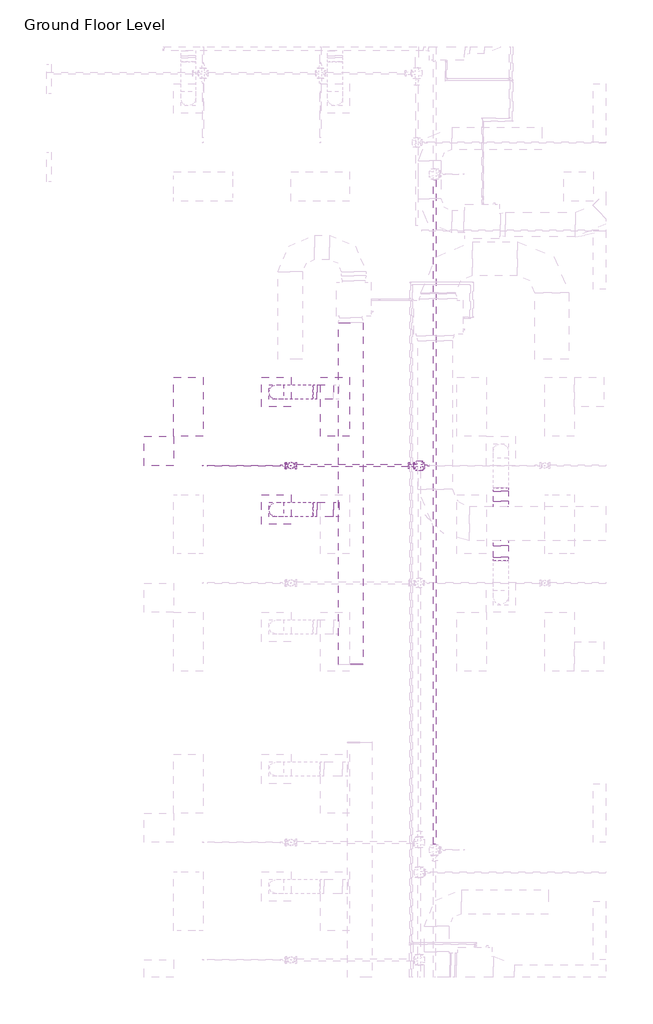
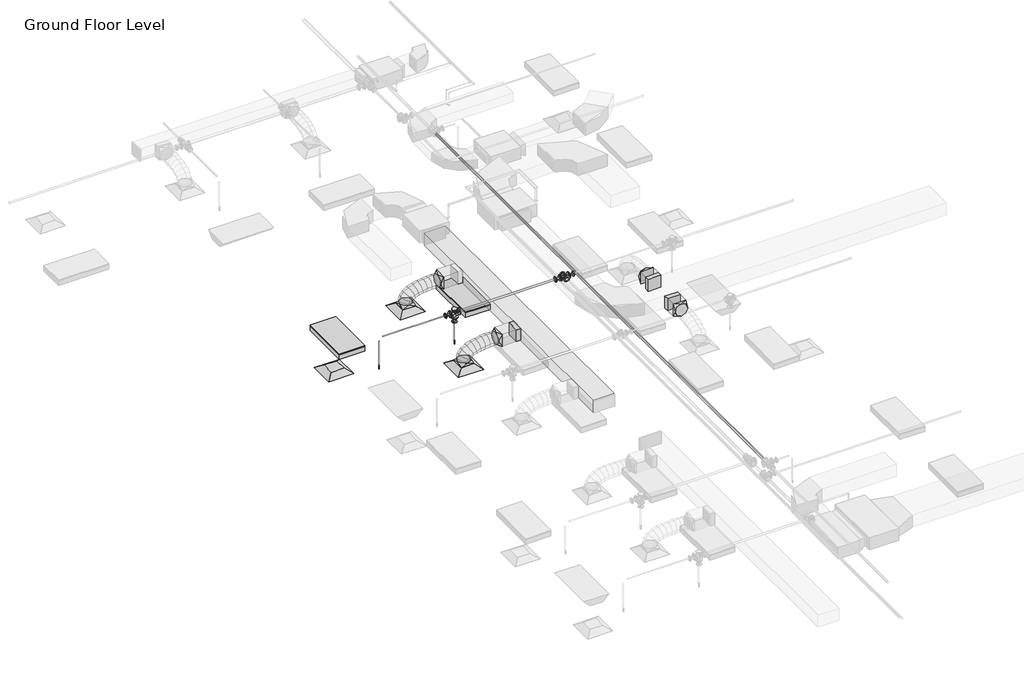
# One storey, part 30 of 74: 9 duct fittings, 7 duct segments, 6 pipe fittings, 5 pipe segments, 3 air terminals, 2 fire suppression terminals, 2 light fixtures.
"""IFC4 building model written with IfcOpenShell, lengths in millimetres."""

from ifc_helpers import new_model, si_unit, point, frame, frame_2d, origin, place, context, project, spatial, polyline, circle_curve, ellipse_curve, trimmed, segment, composite_curve, outline, extrude, transform, mapped, element, save
from ifc_brep_helpers import plane_surface, cylinder_surface, advanced_brep
from components import m_return_diffuser_600_x_600_face_300_x_300_connection_ff221211, m_rectangular_takeoff_standard_cb0ccb98, m_rectangular_takeoff_standard_2be5eba1, m_rectangular_to_round_transition_angle_45_degree_641efff0, m_sprinkler_dry_pendent_hosted_15_mm_dry_pendent_9bda8e11, m_troffer_light_parabolic_rectangular1_0600x1200mm_4_lamp_86473d4a, m_reducer_flanged_cs_class_150_standard_83138b42, m_reducer_flanged_cs_class_150_standard_dc68ad9d, m_reducer_flanged_cs_class_150_standard_678fb8eb, m_reducer_flanged_cs_class_150_standard_84a20e65, m_tee_round_base_flanged_cs_class_150_standard_9c9133d0, m_tee_round_base_flanged_cs_class_150_standard_ab36f383

model = new_model("IFC4")

# Units and contexts
model_context = context("Model", 3, world=origin())
ifc_project = project(units=[si_unit("LENGTHUNIT", "METRE", prefix="MILLI")], contexts=[model_context])

# Site, building, storey
site = spatial("IfcSite", under=ifc_project)
building = spatial("IfcBuilding", under=site)
storey = spatial("IfcBuildingStorey", under=building, Name="Ground Floor Level", Elevation=900.0)

# Air terminals
placement = place(None, origin())
m_return_diffuser_600_x_600_face_300_x_300_connection_shape = m_return_diffuser_600_x_600_face_300_x_300_connection_ff221211(model_context)
element("IfcAirTerminal", 1, ObjectType="M_Return Diffuser : 600 x 600 Face 300 x 300 Connection", at=placement, inside=storey, context=model_context, shape_type="MappedRepresentation", body=[
    mapped(m_return_diffuser_600_x_600_face_300_x_300_connection_shape, transform((362.7672395, -10664.7846466, 3650.0), x_axis=(1.0, 0.0, 0.0), y_axis=(0.0, 1.0, 0.0), z_axis=(0.0, 0.0, 1.0))),
])
element("IfcAirTerminal", 2, ObjectType="M_Supply Diffuser : 600 x 600 Face 300 x 300 Connection", at=placement, inside=storey, context=model_context, shape_type="MappedRepresentation", body=[
    mapped(m_return_diffuser_600_x_600_face_300_x_300_connection_shape, transform((2762.7672395, -9464.7846466, 3650.0), x_axis=(1.0, 0.0, 0.0), y_axis=(0.0, 1.0, 0.0), z_axis=(0.0, 0.0, 1.0))),
])
element("IfcAirTerminal", 3, ObjectType="M_Supply Diffuser : 600 x 600 Face 300 x 300 Connection", at=placement, inside=storey, context=model_context, shape_type="MappedRepresentation", body=[
    mapped(m_return_diffuser_600_x_600_face_300_x_300_connection_shape, transform((2762.7672395, -11864.7846466, 3650.0), x_axis=(1.0, 0.0, 0.0), y_axis=(0.0, 1.0, 0.0), z_axis=(0.0, 0.0, 1.0))),
])

# Duct fittings
m_rectangular_takeoff_standard_shape = m_rectangular_takeoff_standard_cb0ccb98(model_context)
element("IfcDuctFitting", 4, ObjectType="M_Rectangular Takeoff : Standard", at=placement, inside=storey, context=model_context, shape_type="MappedRepresentation", body=[
    mapped(m_rectangular_takeoff_standard_shape, transform((7352.7672395, -11799.3358641, 4099.9875), x_axis=(0.0, 1.0, 0.0), y_axis=(1.0, 0.0, 0.0), z_axis=(0.0, 0.0, -1.0))),
])
m_rectangular_takeoff_standard_2_shape = m_rectangular_takeoff_standard_2be5eba1(model_context)
element("IfcDuctFitting", 5, ObjectType="M_Rectangular Takeoff : Standard", at=placement, inside=storey, context=model_context, shape_type="MappedRepresentation", body=[
    mapped(m_rectangular_takeoff_standard_2_shape, transform((7352.7672395, -12499.3358641, 4099.9875), x_axis=(0.0, -1.0, 0.0), y_axis=(-1.0, 0.0, 0.0), z_axis=(0.0, 0.0, -1.0))),
])
element("IfcDuctFitting", 6, ObjectType="M_Rectangular Takeoff : Standard", at=placement, inside=storey, context=model_context, shape_type="MappedRepresentation", body=[
    mapped(m_rectangular_takeoff_standard_2_shape, transform((4032.1581888, -11864.7846466, 4099.9931113), x_axis=(-1.0, 0.0, 0.0), y_axis=(0.0, 1.0, 0.0), z_axis=(0.0, 0.0, -1.0))),
])
m_rectangular_to_round_transition_angle_45_degree_shape = m_rectangular_to_round_transition_angle_45_degree_641efff0(model_context)
element("IfcDuctFitting", 7, ObjectType="M_Rectangular to Round Transition - Angle : 45 Degree", at=placement, inside=storey, context=model_context, shape_type="MappedRepresentation", body=[
    mapped(m_rectangular_to_round_transition_angle_45_degree_shape, transform((2762.7672395, -9464.7846466, 3751.6), x_axis=(0.0, 0.0, 1.0), y_axis=(-1.0, 0.0, 0.0), z_axis=(0.0, -1.0, 0.0))),
])
element("IfcDuctFitting", 8, ObjectType="M_Rectangular to Round Transition - Angle : 45 Degree", at=placement, inside=storey, context=model_context, shape_type="MappedRepresentation", body=[
    mapped(m_rectangular_to_round_transition_angle_45_degree_shape, transform((3590.1057325, -9464.7846466, 4099.9974383), x_axis=(-1.0, 0.0, 0.0), y_axis=(0.0, -1.0, 0.0), z_axis=(0.0, 0.0, 1.0))),
])
element("IfcDuctFitting", 9, ObjectType="M_Rectangular to Round Transition - Angle : 45 Degree", at=placement, inside=storey, context=model_context, shape_type="MappedRepresentation", body=[
    mapped(m_rectangular_to_round_transition_angle_45_degree_shape, transform((2762.7672395, -11864.7846466, 3751.6), x_axis=(0.0, 0.0, 1.0), y_axis=(-1.0, 0.0, 0.0), z_axis=(0.0, -1.0, 0.0))),
])
element("IfcDuctFitting", 10, ObjectType="M_Rectangular to Round Transition - Angle : 45 Degree", at=placement, inside=storey, context=model_context, shape_type="MappedRepresentation", body=[
    mapped(m_rectangular_to_round_transition_angle_45_degree_shape, transform((3590.1100595, -11864.7846466, 4099.9931113), x_axis=(-1.0, 0.0, 0.0), y_axis=(0.0, -1.0, 0.0), z_axis=(0.0, 0.0, 1.0))),
])
element("IfcDuctFitting", 11, ObjectType="M_Rectangular to Round Transition - Angle : 45 Degree", at=placement, inside=storey, context=model_context, shape_type="MappedRepresentation", body=[
    mapped(m_rectangular_to_round_transition_angle_45_degree_shape, transform((7352.7672395, -11492.1330779, 4099.9875), x_axis=(0.0, 1.0, 0.0), y_axis=(-1.0, 0.0, 0.0), z_axis=(0.0, 0.0, 1.0))),
])
element("IfcDuctFitting", 12, ObjectType="M_Rectangular to Round Transition - Angle : 45 Degree", at=placement, inside=storey, context=model_context, shape_type="MappedRepresentation", body=[
    mapped(m_rectangular_to_round_transition_angle_45_degree_shape, transform((7352.7672395, -12837.4362153, 4099.9875), x_axis=(0.0, -1.0, 0.0), y_axis=(1.0, 0.0, 0.0), z_axis=(0.0, 0.0, 1.0))),
])

# Duct segments
element("IfcDuctSegment", 13, ObjectType="Flex - Round", at=placement, inside=storey, context=model_context, shape_type="AdvancedBrep", body=[
    advanced_brep(
    [(2912.7672395, -9464.7846466, 3826.6), (2762.7672395, -9614.7846466, 3826.6), (2612.7672395, -9464.7846466, 3826.6), (2762.7672395, -9314.7846466, 3826.6), (2912.7672395, -9464.7846466, 3832.2944653), (2762.7672395, -9614.7846466, 3857.937819), (2612.7672395, -9464.7846466, 3883.5811727), (2762.7672395, -9314.7846466, 3857.937819), (2913.5210607, -9464.7846466, 3834.4347571), (2779.7832431, -9614.7846466, 3906.2506195), (2646.0454255, -9464.7846466, 3978.066482), (2779.7832431, -9314.7846466, 3906.2506195), (2931.1727776, -9464.7846466, 3857.8014637), (2826.9673168, -9614.7846466, 3968.7111959), (2722.761856, -9464.7846466, 4079.620928), (2826.9673168, -9314.7846466, 3968.7111959), (2967.4569198, -9464.7846466, 3881.8155831), (2898.5235552, -9614.7846466, 4016.0696268), (2829.5901905, -9464.7846466, 4150.3236705), (2898.5235552, -9314.7846466, 4016.0696268), (3032.2160605, -9464.7846466, 3906.4914754), (2988.6560526, -9614.7846466, 4050.4138102), (2945.0960447, -9464.7846466, 4194.336145), (2988.6560526, -9314.7846466, 4050.4138102), (3118.1291117, -9464.7846466, 3926.0410022), (3091.5689036, -9614.7846466, 4073.8316439), (3065.0086955, -9464.7846466, 4221.6222855), (3091.5689036, -9314.7846466, 4073.8316439), (3216.6164827, -9464.7846466, 3939.1067008), (3201.4662026, -9614.7846466, 4088.4110257), (3186.3159225, -9464.7846466, 4237.7153505), (3201.4662026, -9314.7846466, 4088.4110257), (3320.0568882, -9464.7846466, 3946.3967129), (3312.5520441, -9614.7846466, 4096.2398535), (3305.0472001, -9464.7846466, 4246.0829941), (3312.5520441, -9314.7846466, 4096.2398535), (3421.7217312, -9464.7846466, 3949.4197495), (3419.0305226, -9614.7846466, 4099.4060251), (3416.339314, -9464.7846466, 4249.3923007), (3419.0305226, -9314.7846466, 4099.4060251), (3516.0290748, -9464.7846466, 3950.0002802), (3515.1057325, -9614.7846466, 4099.9974383), (3514.1823902, -9464.7846466, 4249.9945964), (3515.1057325, -9314.7846466, 4099.9974383)],
    [
        (0, 1, circle_curve(frame((2762.7672395, -9464.7846466, 3826.6), z_axis=(0.0, 0.0, -1.0), x_axis=(1.0, 0.0, 0.0)), 150.0)),
        (1, 2, circle_curve(frame((2762.7672395, -9464.7846466, 3826.6), z_axis=(0.0, 0.0, -1.0), x_axis=(1.0, 0.0, 0.0)), 150.0)),
        (2, 3, circle_curve(frame((2762.7672395, -9464.7846466, 3826.6), z_axis=(0.0, 0.0, -1.0), x_axis=(1.0, 0.0, 0.0)), 150.0)),
        (3, 0, circle_curve(frame((2762.7672395, -9464.7846466, 3826.6), z_axis=(0.0, 0.0, -1.0), x_axis=(1.0, 0.0, 0.0)), 150.0)),
        (0, 4),
        (4, 5, ellipse_curve(frame((2762.7672395, -9464.7846466, 3857.937819), z_axis=(-0.1685109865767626, 0.0, -0.9856997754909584), x_axis=(0.9856997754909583, 0.0, -0.16851098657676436)), 152.1761532, 150.0)),
        (5, 1),
        (5, 6, ellipse_curve(frame((2762.7672395, -9464.7846466, 3857.937819), z_axis=(-0.1685109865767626, 0.0, -0.9856997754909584), x_axis=(0.9856997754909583, 0.0, -0.16851098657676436)), 152.1761532, 150.0)),
        (6, 2),
        (6, 7, ellipse_curve(frame((2762.7672395, -9464.7846466, 3857.937819), z_axis=(-0.1685109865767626, 0.0, -0.9856997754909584), x_axis=(0.9856997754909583, 0.0, -0.16851098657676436)), 152.1761532, 150.0)),
        (7, 3),
        (7, 4, ellipse_curve(frame((2762.7672395, -9464.7846466, 3857.937819), z_axis=(-0.1685109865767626, 0.0, -0.9856997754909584), x_axis=(0.9856997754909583, 0.0, -0.16851098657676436)), 152.1761532, 150.0)),
        (4, 8),
        (8, 9, ellipse_curve(frame((2779.7832431, -9464.7846466, 3906.2506195), z_axis=(-0.47309443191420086, 0.0, -0.8810117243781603), x_axis=(0.8810117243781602, 0.0, -0.4730944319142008)), 151.80027, 150.0)),
        (9, 5),
        (9, 10, ellipse_curve(frame((2779.7832431, -9464.7846466, 3906.2506195), z_axis=(-0.47309443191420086, 0.0, -0.8810117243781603), x_axis=(0.8810117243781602, 0.0, -0.4730944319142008)), 151.80027, 150.0)),
        (10, 6),
        (10, 11, ellipse_curve(frame((2779.7832431, -9464.7846466, 3906.2506195), z_axis=(-0.47309443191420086, 0.0, -0.8810117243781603), x_axis=(0.8810117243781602, 0.0, -0.4730944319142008)), 151.80027, 150.0)),
        (11, 7),
        (11, 8, ellipse_curve(frame((2779.7832431, -9464.7846466, 3906.2506195), z_axis=(-0.47309443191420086, 0.0, -0.8810117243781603), x_axis=(0.8810117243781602, 0.0, -0.4730944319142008)), 151.80027, 150.0)),
        (8, 12),
        (12, 13, ellipse_curve(frame((2826.9673168, -9464.7846466, 3968.7111959), z_axis=(-0.7287905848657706, 0.0, -0.6847366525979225), x_axis=(0.6847366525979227, 0.0, -0.7287905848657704)), 152.1832669, 150.0)),
        (13, 9),
        (13, 14, ellipse_curve(frame((2826.9673168, -9464.7846466, 3968.7111959), z_axis=(-0.7287905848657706, 0.0, -0.6847366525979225), x_axis=(0.6847366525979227, 0.0, -0.7287905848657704)), 152.1832669, 150.0)),
        (14, 10),
        (14, 15, ellipse_curve(frame((2826.9673168, -9464.7846466, 3968.7111959), z_axis=(-0.7287905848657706, 0.0, -0.6847366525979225), x_axis=(0.6847366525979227, 0.0, -0.7287905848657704)), 152.1832669, 150.0)),
        (15, 11),
        (15, 12, ellipse_curve(frame((2826.9673168, -9464.7846466, 3968.7111959), z_axis=(-0.7287905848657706, 0.0, -0.6847366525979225), x_axis=(0.6847366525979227, 0.0, -0.7287905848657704)), 152.1832669, 150.0)),
        (12, 16),
        (16, 17, ellipse_curve(frame((2898.5235552, -9464.7846466, 4016.0696268), z_axis=(-0.8895882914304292, 0.0, -0.45676325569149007), x_axis=(0.45676325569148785, 0.0, -0.8895882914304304)), 150.9170535, 150.0)),
        (17, 13),
        (17, 18, ellipse_curve(frame((2898.5235552, -9464.7846466, 4016.0696268), z_axis=(-0.8895882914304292, 0.0, -0.45676325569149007), x_axis=(0.45676325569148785, 0.0, -0.8895882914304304)), 150.9170535, 150.0)),
        (18, 14),
        (18, 19, ellipse_curve(frame((2898.5235552, -9464.7846466, 4016.0696268), z_axis=(-0.8895882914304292, 0.0, -0.45676325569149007), x_axis=(0.45676325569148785, 0.0, -0.8895882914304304)), 150.9170535, 150.0)),
        (19, 15),
        (19, 16, ellipse_curve(frame((2898.5235552, -9464.7846466, 4016.0696268), z_axis=(-0.8895882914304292, 0.0, -0.45676325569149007), x_axis=(0.45676325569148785, 0.0, -0.8895882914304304)), 150.9170535, 150.0)),
        (16, 20),
        (20, 21, ellipse_curve(frame((2988.6560526, -9464.7846466, 4050.4138102), z_axis=(-0.9571218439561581, 0.0, -0.2896856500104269), x_axis=(0.28968565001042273, 0.0, -0.9571218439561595)), 150.3699197, 150.0)),
        (21, 17),
        (21, 22, ellipse_curve(frame((2988.6560526, -9464.7846466, 4050.4138102), z_axis=(-0.9571218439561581, 0.0, -0.2896856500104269), x_axis=(0.28968565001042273, 0.0, -0.9571218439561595)), 150.3699197, 150.0)),
        (22, 18),
        (22, 23, ellipse_curve(frame((2988.6560526, -9464.7846466, 4050.4138102), z_axis=(-0.9571218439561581, 0.0, -0.2896856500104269), x_axis=(0.28968565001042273, 0.0, -0.9571218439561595)), 150.3699197, 150.0)),
        (23, 19),
        (23, 20, ellipse_curve(frame((2988.6560526, -9464.7846466, 4050.4138102), z_axis=(-0.9571218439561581, 0.0, -0.2896856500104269), x_axis=(0.28968565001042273, 0.0, -0.9571218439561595)), 150.3699197, 150.0)),
        (20, 24),
        (24, 25, ellipse_curve(frame((3091.5689036, -9464.7846466, 4073.8316439), z_axis=(-0.9842321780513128, 0.0, -0.1768813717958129), x_axis=(0.17688137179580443, 0.0, -0.9842321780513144)), 150.1583111, 150.0)),
        (25, 21),
        (25, 26, ellipse_curve(frame((3091.5689036, -9464.7846466, 4073.8316439), z_axis=(-0.9842321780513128, 0.0, -0.1768813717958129), x_axis=(0.17688137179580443, 0.0, -0.9842321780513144)), 150.1583111, 150.0)),
        (26, 22),
        (26, 27, ellipse_curve(frame((3091.5689036, -9464.7846466, 4073.8316439), z_axis=(-0.9842321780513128, 0.0, -0.1768813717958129), x_axis=(0.17688137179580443, 0.0, -0.9842321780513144)), 150.1583111, 150.0)),
        (27, 23),
        (27, 24, ellipse_curve(frame((3091.5689036, -9464.7846466, 4073.8316439), z_axis=(-0.9842321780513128, 0.0, -0.1768813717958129), x_axis=(0.17688137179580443, 0.0, -0.9842321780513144)), 150.1583111, 150.0)),
        (24, 28),
        (28, 29, ellipse_curve(frame((3201.4662026, -9464.7846466, 4088.4110257), z_axis=(-0.994891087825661, 0.0, -0.10095406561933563), x_axis=(0.10095406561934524, 0.0, -0.99489108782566)), 150.0710245, 150.0)),
        (29, 25),
        (29, 30, ellipse_curve(frame((3201.4662026, -9464.7846466, 4088.4110257), z_axis=(-0.994891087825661, 0.0, -0.10095406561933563), x_axis=(0.10095406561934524, 0.0, -0.99489108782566)), 150.0710245, 150.0)),
        (30, 26),
        (30, 31, ellipse_curve(frame((3201.4662026, -9464.7846466, 4088.4110257), z_axis=(-0.994891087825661, 0.0, -0.10095406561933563), x_axis=(0.10095406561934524, 0.0, -0.99489108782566)), 150.0710245, 150.0)),
        (31, 27),
        (31, 28, ellipse_curve(frame((3201.4662026, -9464.7846466, 4088.4110257), z_axis=(-0.994891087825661, 0.0, -0.10095406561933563), x_axis=(0.10095406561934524, 0.0, -0.99489108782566)), 150.0710245, 150.0)),
        (28, 32),
        (32, 33, ellipse_curve(frame((3312.5520441, -9464.7846466, 4096.2398535), z_axis=(-0.9987481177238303, 0.0, -0.05002196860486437), x_axis=(0.05002196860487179, 0.0, -0.9987481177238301)), 150.0309617, 150.0)),
        (33, 29),
        (33, 34, ellipse_curve(frame((3312.5520441, -9464.7846466, 4096.2398535), z_axis=(-0.9987481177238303, 0.0, -0.05002196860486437), x_axis=(0.05002196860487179, 0.0, -0.9987481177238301)), 150.0309617, 150.0)),
        (34, 30),
        (34, 35, ellipse_curve(frame((3312.5520441, -9464.7846466, 4096.2398535), z_axis=(-0.9987481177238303, 0.0, -0.05002196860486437), x_axis=(0.05002196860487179, 0.0, -0.9987481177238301)), 150.0309617, 150.0)),
        (35, 31),
        (35, 32, ellipse_curve(frame((3312.5520441, -9464.7846466, 4096.2398535), z_axis=(-0.9987481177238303, 0.0, -0.05002196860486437), x_axis=(0.05002196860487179, 0.0, -0.9987481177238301)), 150.0309617, 150.0)),
        (32, 36),
        (36, 37, ellipse_curve(frame((3419.0305226, -9464.7846466, 4099.4060251), z_axis=(-0.9998390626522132, 0.0, -0.01794014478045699), x_axis=(0.017940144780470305, 0.0, -0.9998390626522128)), 150.0104179, 150.0)),
        (37, 33),
        (37, 38, ellipse_curve(frame((3419.0305226, -9464.7846466, 4099.4060251), z_axis=(-0.9998390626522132, 0.0, -0.01794014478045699), x_axis=(0.017940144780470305, 0.0, -0.9998390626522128)), 150.0104179, 150.0)),
        (38, 34),
        (38, 39, ellipse_curve(frame((3419.0305226, -9464.7846466, 4099.4060251), z_axis=(-0.9998390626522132, 0.0, -0.01794014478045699), x_axis=(0.017940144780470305, 0.0, -0.9998390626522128)), 150.0104179, 150.0)),
        (39, 35),
        (39, 36, ellipse_curve(frame((3419.0305226, -9464.7846466, 4099.4060251), z_axis=(-0.9998390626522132, 0.0, -0.01794014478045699), x_axis=(0.017940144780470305, 0.0, -0.9998390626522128)), 150.0104179, 150.0)),
        (36, 40),
        (40, 41, circle_curve(frame((3515.1057325, -9464.7846466, 4099.9974383), z_axis=(-0.9999810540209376, 0.0, -0.006155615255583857), x_axis=(0.006155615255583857, 0.0, -0.9999810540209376)), 150.0)),
        (41, 37),
        (41, 42, circle_curve(frame((3515.1057325, -9464.7846466, 4099.9974383), z_axis=(-0.9999810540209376, 0.0, -0.006155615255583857), x_axis=(0.006155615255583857, 0.0, -0.9999810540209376)), 150.0)),
        (42, 38),
        (42, 43, circle_curve(frame((3515.1057325, -9464.7846466, 4099.9974383), z_axis=(-0.9999810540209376, 0.0, -0.006155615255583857), x_axis=(0.006155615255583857, 0.0, -0.9999810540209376)), 150.0)),
        (43, 39),
        (43, 40, circle_curve(frame((3515.1057325, -9464.7846466, 4099.9974383), z_axis=(-0.9999810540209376, 0.0, -0.006155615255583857), x_axis=(0.006155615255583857, 0.0, -0.9999810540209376)), 150.0)),
    ],
    [
        plane_surface(frame((2762.7672395, -9614.7846466, 3826.6), z_axis=(0.0, 0.0, -1.0), x_axis=(1.0, 0.0, 0.0))),
        cylinder_surface(frame((2762.7672395, -9464.7846466, 3826.6), z_axis=(0.0, 0.0, -1.0), x_axis=(1.0, 0.0, 0.0)), 150.0),
        cylinder_surface(frame((2762.7672395, -9464.7846466, 3857.937819), z_axis=(-0.3322024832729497, 0.0, -0.9432080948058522), x_axis=(0.9432080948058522, 0.0, -0.3322024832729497)), 150.0),
        cylinder_surface(frame((2779.7832431, -9464.7846466, 3906.2506195), z_axis=(-0.6027650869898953, 0.0, -0.7979186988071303), x_axis=(0.7979186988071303, 0.0, -0.6027650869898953)), 150.0),
        cylinder_surface(frame((2826.9673168, -9464.7846466, 3968.7111959), z_axis=(-0.8339051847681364, 0.0, -0.5519077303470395), x_axis=(0.5519077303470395, 0.0, -0.8339051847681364)), 150.0),
        cylinder_surface(frame((2898.5235552, -9464.7846466, 4016.0696268), z_axis=(-0.9344601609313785, 0.0, -0.3560677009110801), x_axis=(0.3560677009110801, 0.0, -0.9344601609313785)), 150.0),
        cylinder_surface(frame((2988.6560526, -9464.7846466, 4050.4138102), z_axis=(-0.9750743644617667, 0.0, -0.22187830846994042), x_axis=(0.22187830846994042, 0.0, -0.9750743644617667)), 150.0),
        cylinder_surface(frame((3091.5689036, -9464.7846466, 4073.8316439), z_axis=(-0.9913146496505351, 0.0, -0.13151146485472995), x_axis=(0.13151146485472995, 0.0, -0.9913146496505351)), 150.0),
        cylinder_surface(frame((3201.4662026, -9464.7846466, 4088.4110257), z_axis=(-0.99752581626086, 0.0, -0.07030110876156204), x_axis=(0.07030110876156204, 0.0, -0.99752581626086)), 150.0),
        cylinder_surface(frame((3312.5520441, -9464.7846466, 4096.2398535), z_axis=(-0.9995581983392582, 0.0, -0.029722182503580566), x_axis=(0.029722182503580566, 0.0, -0.9995581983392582)), 150.0),
        cylinder_surface(frame((3419.0305226, -9464.7846466, 4099.4060251), z_axis=(-0.9999810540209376, 0.0, -0.006155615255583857), x_axis=(0.006155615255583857, 0.0, -0.9999810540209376)), 150.0),
        plane_surface(frame((3515.1057325, -9614.7846466, 4099.9974383), z_axis=(0.9999810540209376, 0.0, 0.006155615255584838), x_axis=(0.006155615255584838, 0.0, -0.9999810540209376))),
    ],
    [
        (0, [[1, 2, 3, 4]]),
        (1, [[-1, 5, 6, 7]]),
        (1, [[-2, -7, 8, 9]]),
        (1, [[-3, -9, 10, 11]]),
        (1, [[-4, -11, 12, -5]]),
        (2, [[-6, 13, 14, 15]]),
        (2, [[-8, -15, 16, 17]]),
        (2, [[-10, -17, 18, 19]]),
        (2, [[-12, -19, 20, -13]]),
        (3, [[-14, 21, 22, 23]]),
        (3, [[-16, -23, 24, 25]]),
        (3, [[-18, -25, 26, 27]]),
        (3, [[-20, -27, 28, -21]]),
        (4, [[-22, 29, 30, 31]]),
        (4, [[-24, -31, 32, 33]]),
        (4, [[-26, -33, 34, 35]]),
        (4, [[-28, -35, 36, -29]]),
        (5, [[-30, 37, 38, 39]]),
        (5, [[-32, -39, 40, 41]]),
        (5, [[-34, -41, 42, 43]]),
        (5, [[-36, -43, 44, -37]]),
        (6, [[-38, 45, 46, 47]]),
        (6, [[-40, -47, 48, 49]]),
        (6, [[-42, -49, 50, 51]]),
        (6, [[-44, -51, 52, -45]]),
        (7, [[-46, 53, 54, 55]]),
        (7, [[-48, -55, 56, 57]]),
        (7, [[-50, -57, 58, 59]]),
        (7, [[-52, -59, 60, -53]]),
        (8, [[-54, 61, 62, 63]]),
        (8, [[-56, -63, 64, 65]]),
        (8, [[-58, -65, 66, 67]]),
        (8, [[-60, -67, 68, -61]]),
        (9, [[-62, 69, 70, 71]]),
        (9, [[-64, -71, 72, 73]]),
        (9, [[-66, -73, 74, 75]]),
        (9, [[-68, -75, 76, -69]]),
        (10, [[-70, 77, 78, 79]]),
        (10, [[-72, -79, 80, 81]]),
        (10, [[-74, -81, 82, 83]]),
        (10, [[-76, -83, 84, -77]]),
        (11, [[-84, -82, -80, -78]]),
    ],
),
])
element("IfcDuctSegment", 14, ObjectType="Flex - Round", at=placement, inside=storey, context=model_context, shape_type="AdvancedBrep", body=[
    advanced_brep(
    [(2912.7672395, -11864.7846466, 3826.6), (2762.7672395, -12014.7846466, 3826.6), (2612.7672395, -11864.7846466, 3826.6), (2762.7672395, -11714.7846466, 3826.6), (2912.7672395, -11864.7846466, 3832.2944249), (2762.7672395, -12014.7846466, 3857.9380006), (2612.7672395, -11864.7846466, 3883.5815763), (2762.7672395, -11714.7846466, 3857.9380006), (2913.5209081, -11864.7846466, 3834.434264), (2779.783363, -12014.7846466, 3906.2506984), (2646.045818, -11864.7846466, 3978.0671329), (2779.783363, -11714.7846466, 3906.2506984), (2931.1724836, -11864.7846466, 3857.8005181), (2826.9677634, -12014.7846466, 3968.7109978), (2722.7630433, -11864.7846466, 4079.6214776), (2826.9677634, -11714.7846466, 3968.7109978), (2967.4566828, -11864.7846466, 3881.8142389), (2898.5244852, -12014.7846466, 4016.0688885), (2829.5922876, -11864.7846466, 4150.3235382), (2898.5244852, -11714.7846466, 4016.0688885), (3032.2163051, -11864.7846466, 3906.4896423), (2988.6575729, -12014.7846466, 4050.4123609), (2945.0988407, -11864.7846466, 4194.3350795), (2988.6575729, -11714.7846466, 4050.4123609), (3118.1300698, -11864.7846466, 3926.0385497), (3091.5710711, -12014.7846466, 4073.8294054), (3065.0120723, -11864.7846466, 4221.620261), (3091.5710711, -11714.7846466, 4073.8294054), (3216.6182532, -11864.7846466, 3939.1035838), (3201.4690243, -12014.7846466, 4088.4080122), (3186.3197953, -11864.7846466, 4237.7124407), (3201.4690243, -11714.7846466, 4088.4080122), (3320.0595033, -11864.7846466, 3946.3929932), (3312.555477, -12014.7846466, 4096.2361719), (3305.0514507, -11864.7846466, 4246.0793507), (3312.555477, -11714.7846466, 4096.2361719), (3421.725202, -11864.7846466, 3949.415593), (3419.0344739, -12014.7846466, 4099.4018748), (3416.3437458, -11864.7846466, 4249.3881567), (3419.0344739, -11714.7846466, 4099.4018748), (3516.0331222, -11864.7846466, 3949.9959514), (3515.1100595, -12014.7846466, 4099.9931113), (3514.1869969, -11864.7846466, 4249.9902711), (3515.1100595, -11714.7846466, 4099.9931113)],
    [
        (0, 1, circle_curve(frame((2762.7672395, -11864.7846466, 3826.6), z_axis=(0.0, 0.0, -1.0), x_axis=(1.0, 0.0, 0.0)), 150.0)),
        (1, 2, circle_curve(frame((2762.7672395, -11864.7846466, 3826.6), z_axis=(0.0, 0.0, -1.0), x_axis=(1.0, 0.0, 0.0)), 150.0)),
        (2, 3, circle_curve(frame((2762.7672395, -11864.7846466, 3826.6), z_axis=(0.0, 0.0, -1.0), x_axis=(1.0, 0.0, 0.0)), 150.0)),
        (3, 0, circle_curve(frame((2762.7672395, -11864.7846466, 3826.6), z_axis=(0.0, 0.0, -1.0), x_axis=(1.0, 0.0, 0.0)), 150.0)),
        (0, 4),
        (4, 5, ellipse_curve(frame((2762.7672395, -11864.7846466, 3857.9380006), z_axis=(-0.1685124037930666, 0.0, -0.985699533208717), x_axis=(0.985699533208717, 0.0, -0.16851240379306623)), 152.1761906, 150.0)),
        (5, 1),
        (5, 6, ellipse_curve(frame((2762.7672395, -11864.7846466, 3857.9380006), z_axis=(-0.1685124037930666, 0.0, -0.985699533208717), x_axis=(0.985699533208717, 0.0, -0.16851240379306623)), 152.1761906, 150.0)),
        (6, 2),
        (6, 7, ellipse_curve(frame((2762.7672395, -11864.7846466, 3857.9380006), z_axis=(-0.1685124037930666, 0.0, -0.985699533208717), x_axis=(0.985699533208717, 0.0, -0.16851240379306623)), 152.1761906, 150.0)),
        (7, 3),
        (7, 4, ellipse_curve(frame((2762.7672395, -11864.7846466, 3857.9380006), z_axis=(-0.1685124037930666, 0.0, -0.985699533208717), x_axis=(0.985699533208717, 0.0, -0.16851240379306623)), 152.1761906, 150.0)),
        (4, 8),
        (8, 9, ellipse_curve(frame((2779.783363, -11864.7846466, 3906.2506984), z_axis=(-0.47309810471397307, 0.0, -0.8810097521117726), x_axis=(0.8810097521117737, 0.0, -0.47309810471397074)), 151.8003005, 150.0)),
        (9, 5),
        (9, 10, ellipse_curve(frame((2779.783363, -11864.7846466, 3906.2506984), z_axis=(-0.47309810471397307, 0.0, -0.8810097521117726), x_axis=(0.8810097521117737, 0.0, -0.47309810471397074)), 151.8003005, 150.0)),
        (10, 6),
        (10, 11, ellipse_curve(frame((2779.783363, -11864.7846466, 3906.2506984), z_axis=(-0.47309810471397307, 0.0, -0.8810097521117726), x_axis=(0.8810097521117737, 0.0, -0.47309810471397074)), 151.8003005, 150.0)),
        (11, 7),
        (11, 8, ellipse_curve(frame((2779.783363, -11864.7846466, 3906.2506984), z_axis=(-0.47309810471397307, 0.0, -0.8810097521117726), x_axis=(0.8810097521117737, 0.0, -0.47309810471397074)), 151.8003005, 150.0)),
        (8, 12),
        (12, 13, ellipse_curve(frame((2826.9677634, -11864.7846466, 3968.7109978), z_axis=(-0.7287953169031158, 0.0, -0.684731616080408), x_axis=(0.6847316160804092, 0.0, -0.7287953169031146)), 152.1833047, 150.0)),
        (13, 9),
        (13, 14, ellipse_curve(frame((2826.9677634, -11864.7846466, 3968.7109978), z_axis=(-0.7287953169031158, 0.0, -0.684731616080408), x_axis=(0.6847316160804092, 0.0, -0.7287953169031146)), 152.1833047, 150.0)),
        (14, 10),
        (14, 15, ellipse_curve(frame((2826.9677634, -11864.7846466, 3968.7109978), z_axis=(-0.7287953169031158, 0.0, -0.684731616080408), x_axis=(0.6847316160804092, 0.0, -0.7287953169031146)), 152.1833047, 150.0)),
        (15, 11),
        (15, 12, ellipse_curve(frame((2826.9677634, -11864.7846466, 3968.7109978), z_axis=(-0.7287953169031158, 0.0, -0.684731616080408), x_axis=(0.6847316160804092, 0.0, -0.7287953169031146)), 152.1833047, 150.0)),
        (12, 16),
        (16, 17, ellipse_curve(frame((2898.5244852, -11864.7846466, 4016.0688885), z_axis=(-0.8895922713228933, 0.0, -0.45675550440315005), x_axis=(0.4567555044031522, 0.0, -0.8895922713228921)), 150.9170594, 150.0)),
        (17, 13),
        (17, 18, ellipse_curve(frame((2898.5244852, -11864.7846466, 4016.0688885), z_axis=(-0.8895922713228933, 0.0, -0.45675550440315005), x_axis=(0.4567555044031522, 0.0, -0.8895922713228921)), 150.9170594, 150.0)),
        (18, 14),
        (18, 19, ellipse_curve(frame((2898.5244852, -11864.7846466, 4016.0688885), z_axis=(-0.8895922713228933, 0.0, -0.45675550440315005), x_axis=(0.4567555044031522, 0.0, -0.8895922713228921)), 150.9170594, 150.0)),
        (19, 15),
        (19, 16, ellipse_curve(frame((2898.5244852, -11864.7846466, 4016.0688885), z_axis=(-0.8895922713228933, 0.0, -0.45675550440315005), x_axis=(0.4567555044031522, 0.0, -0.8895922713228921)), 150.9170594, 150.0)),
        (16, 20),
        (20, 21, ellipse_curve(frame((2988.6575729, -11864.7846466, 4050.4123609), z_axis=(-0.957124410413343, 0.0, -0.289677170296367), x_axis=(0.28967717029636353, 0.0, -0.9571244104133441)), 150.3699175, 150.0)),
        (21, 17),
        (21, 22, ellipse_curve(frame((2988.6575729, -11864.7846466, 4050.4123609), z_axis=(-0.957124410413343, 0.0, -0.289677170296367), x_axis=(0.28967717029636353, 0.0, -0.9571244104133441)), 150.3699175, 150.0)),
        (22, 18),
        (22, 23, ellipse_curve(frame((2988.6575729, -11864.7846466, 4050.4123609), z_axis=(-0.957124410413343, 0.0, -0.289677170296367), x_axis=(0.28967717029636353, 0.0, -0.9571244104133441)), 150.3699175, 150.0)),
        (23, 19),
        (23, 20, ellipse_curve(frame((2988.6575729, -11864.7846466, 4050.4123609), z_axis=(-0.957124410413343, 0.0, -0.289677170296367), x_axis=(0.28967717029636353, 0.0, -0.9571244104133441)), 150.3699175, 150.0)),
        (20, 24),
        (24, 25, ellipse_curve(frame((3091.5710711, -11864.7846466, 4073.8294054), z_axis=(-0.9842336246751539, 0.0, -0.1768733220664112), x_axis=(0.17687332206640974, 0.0, -0.9842336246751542)), 150.1583079, 150.0)),
        (25, 21),
        (25, 26, ellipse_curve(frame((3091.5710711, -11864.7846466, 4073.8294054), z_axis=(-0.9842336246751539, 0.0, -0.1768733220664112), x_axis=(0.17687332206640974, 0.0, -0.9842336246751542)), 150.1583079, 150.0)),
        (26, 22),
        (26, 27, ellipse_curve(frame((3091.5710711, -11864.7846466, 4073.8294054), z_axis=(-0.9842336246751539, 0.0, -0.1768733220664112), x_axis=(0.17687332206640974, 0.0, -0.9842336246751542)), 150.1583079, 150.0)),
        (27, 23),
        (27, 24, ellipse_curve(frame((3091.5710711, -11864.7846466, 4073.8294054), z_axis=(-0.9842336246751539, 0.0, -0.1768733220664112), x_axis=(0.17687332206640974, 0.0, -0.9842336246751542)), 150.1583079, 150.0)),
        (24, 28),
        (28, 29, ellipse_curve(frame((3201.4690243, -11864.7846466, 4088.4080122), z_axis=(-0.9948917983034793, 0.0, -0.10094706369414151), x_axis=(0.10094706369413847, 0.0, -0.9948917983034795)), 150.0710214, 150.0)),
        (29, 25),
        (29, 30, ellipse_curve(frame((3201.4690243, -11864.7846466, 4088.4080122), z_axis=(-0.9948917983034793, 0.0, -0.10094706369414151), x_axis=(0.10094706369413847, 0.0, -0.9948917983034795)), 150.0710214, 150.0)),
        (30, 26),
        (30, 31, ellipse_curve(frame((3201.4690243, -11864.7846466, 4088.4080122), z_axis=(-0.9948917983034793, 0.0, -0.10094706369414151), x_axis=(0.10094706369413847, 0.0, -0.9948917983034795)), 150.0710214, 150.0)),
        (31, 27),
        (31, 28, ellipse_curve(frame((3201.4690243, -11864.7846466, 4088.4080122), z_axis=(-0.9948917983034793, 0.0, -0.10094706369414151), x_axis=(0.10094706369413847, 0.0, -0.9948917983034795)), 150.0710214, 150.0)),
        (28, 32),
        (32, 33, ellipse_curve(frame((3312.555477, -11864.7846466, 4096.2361719), z_axis=(-0.99874839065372, 0.0, -0.050016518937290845), x_axis=(0.050016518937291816, 0.0, -0.99874839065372)), 150.0309589, 150.0)),
        (33, 29),
        (33, 34, ellipse_curve(frame((3312.555477, -11864.7846466, 4096.2361719), z_axis=(-0.99874839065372, 0.0, -0.050016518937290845), x_axis=(0.050016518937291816, 0.0, -0.99874839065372)), 150.0309589, 150.0)),
        (34, 30),
        (34, 35, ellipse_curve(frame((3312.555477, -11864.7846466, 4096.2361719), z_axis=(-0.99874839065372, 0.0, -0.050016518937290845), x_axis=(0.050016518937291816, 0.0, -0.99874839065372)), 150.0309589, 150.0)),
        (35, 31),
        (35, 32, ellipse_curve(frame((3312.555477, -11864.7846466, 4096.2361719), z_axis=(-0.99874839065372, 0.0, -0.050016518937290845), x_axis=(0.050016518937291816, 0.0, -0.99874839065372)), 150.0309589, 150.0)),
        (32, 36),
        (36, 37, ellipse_curve(frame((3419.0344739, -11864.7846466, 4099.4018748), z_axis=(-0.999839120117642, 0.0, -0.017936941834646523), x_axis=(0.017936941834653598, 1.819106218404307e-12, -0.9998391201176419)), 150.0104155, 150.0)),
        (37, 33),
        (37, 38, ellipse_curve(frame((3419.0344739, -11864.7846466, 4099.4018748), z_axis=(-0.999839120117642, 0.0, -0.017936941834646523), x_axis=(0.017936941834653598, 1.819106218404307e-12, -0.9998391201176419)), 150.0104155, 150.0)),
        (38, 34),
        (38, 39, ellipse_curve(frame((3419.0344739, -11864.7846466, 4099.4018748), z_axis=(-0.999839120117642, 0.0, -0.017936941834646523), x_axis=(0.017936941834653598, 1.819106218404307e-12, -0.9998391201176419)), 150.0104155, 150.0)),
        (39, 35),
        (39, 36, ellipse_curve(frame((3419.0344739, -11864.7846466, 4099.4018748), z_axis=(-0.999839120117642, 0.0, -0.017936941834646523), x_axis=(0.017936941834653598, 1.819106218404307e-12, -0.9998391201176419)), 150.0104155, 150.0)),
        (36, 40),
        (40, 41, circle_curve(frame((3515.1100595, -11864.7846466, 4099.9931113), z_axis=(-0.9999810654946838, 0.0, -0.006153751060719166), x_axis=(0.006153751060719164, 0.0, -0.9999810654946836)), 150.0)),
        (41, 37),
        (41, 42, circle_curve(frame((3515.1100595, -11864.7846466, 4099.9931113), z_axis=(-0.9999810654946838, 0.0, -0.006153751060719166), x_axis=(0.006153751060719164, 0.0, -0.9999810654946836)), 150.0)),
        (42, 38),
        (42, 43, circle_curve(frame((3515.1100595, -11864.7846466, 4099.9931113), z_axis=(-0.9999810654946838, 0.0, -0.006153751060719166), x_axis=(0.006153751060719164, 0.0, -0.9999810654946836)), 150.0)),
        (43, 39),
        (43, 40, circle_curve(frame((3515.1100595, -11864.7846466, 4099.9931113), z_axis=(-0.9999810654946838, 0.0, -0.006153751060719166), x_axis=(0.006153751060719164, 0.0, -0.9999810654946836)), 150.0)),
    ],
    [
        plane_surface(frame((2762.7672395, -12014.7846466, 3826.6), z_axis=(0.0, 0.0, -1.0), x_axis=(1.0, 0.0, 0.0))),
        cylinder_surface(frame((2762.7672395, -11864.7846466, 3826.6), z_axis=(0.0, 0.0, -1.0), x_axis=(1.0, 0.0, 0.0)), 150.0),
        cylinder_surface(frame((2762.7672395, -11864.7846466, 3857.9380006), z_axis=(-0.33220519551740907, 0.0, -0.943207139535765), x_axis=(0.943207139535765, 0.0, -0.33220519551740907)), 150.0),
        cylinder_surface(frame((2779.783363, -11864.7846466, 3906.2506984), z_axis=(-0.602769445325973, 0.0, -0.7979154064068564), x_axis=(0.7979154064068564, 0.0, -0.602769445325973)), 150.0),
        cylinder_surface(frame((2826.9677634, -11864.7846466, 3968.7109978), z_axis=(-0.8339097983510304, 0.0, -0.55190075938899), x_axis=(0.55190075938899, 0.0, -0.8339097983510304)), 150.0),
        cylinder_surface(frame((2898.5244852, -11864.7846466, 4016.0688885), z_axis=(-0.9344633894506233, 0.0, -0.35605922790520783), x_axis=(0.35605922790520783, 0.0, -0.9344633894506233)), 150.0),
        cylinder_surface(frame((2988.6575729, -11864.7846466, 4050.4123609), z_axis=(-0.9750762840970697, 0.0, -0.2218698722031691), x_axis=(0.2218698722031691, 0.0, -0.9750762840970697)), 150.0),
        cylinder_surface(frame((3091.5710711, -11864.7846466, 4073.8294054), z_axis=(-0.9913156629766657, 0.0, -0.13150382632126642), x_axis=(0.13150382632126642, 0.0, -0.9913156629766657)), 150.0),
        cylinder_surface(frame((3201.4690243, -11864.7846466, 4088.4080122), z_axis=(-0.9975262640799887, 0.0, -0.07029475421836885), x_axis=(0.07029475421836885, 0.0, -0.9975262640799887)), 150.0),
        cylinder_surface(frame((3312.555477, -11864.7846466, 4096.2361719), z_axis=(-0.9995583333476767, 0.0, -0.029717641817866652), x_axis=(0.029717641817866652, 0.0, -0.9995583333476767)), 150.0),
        cylinder_surface(frame((3419.0344739, -11864.7846466, 4099.4018748), z_axis=(-0.9999810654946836, 0.0, -0.006153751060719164), x_axis=(0.006153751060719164, 0.0, -0.9999810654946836)), 150.0),
        plane_surface(frame((3515.1100595, -12014.7846466, 4099.9931113), z_axis=(0.9999810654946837, 0.0, 0.006153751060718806), x_axis=(0.006153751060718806, -3.666400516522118e-12, -0.9999810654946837))),
    ],
    [
        (0, [[1, 2, 3, 4]]),
        (1, [[-1, 5, 6, 7]]),
        (1, [[-2, -7, 8, 9]]),
        (1, [[-3, -9, 10, 11]]),
        (1, [[-4, -11, 12, -5]]),
        (2, [[-6, 13, 14, 15]]),
        (2, [[-8, -15, 16, 17]]),
        (2, [[-10, -17, 18, 19]]),
        (2, [[-12, -19, 20, -13]]),
        (3, [[-14, 21, 22, 23]]),
        (3, [[-16, -23, 24, 25]]),
        (3, [[-18, -25, 26, 27]]),
        (3, [[-20, -27, 28, -21]]),
        (4, [[-22, 29, 30, 31]]),
        (4, [[-24, -31, 32, 33]]),
        (4, [[-26, -33, 34, 35]]),
        (4, [[-28, -35, 36, -29]]),
        (5, [[-30, 37, 38, 39]]),
        (5, [[-32, -39, 40, 41]]),
        (5, [[-34, -41, 42, 43]]),
        (5, [[-36, -43, 44, -37]]),
        (6, [[-38, 45, 46, 47]]),
        (6, [[-40, -47, 48, 49]]),
        (6, [[-42, -49, 50, 51]]),
        (6, [[-44, -51, 52, -45]]),
        (7, [[-46, 53, 54, 55]]),
        (7, [[-48, -55, 56, 57]]),
        (7, [[-50, -57, 58, 59]]),
        (7, [[-52, -59, 60, -53]]),
        (8, [[-54, 61, 62, 63]]),
        (8, [[-56, -63, 64, 65]]),
        (8, [[-58, -65, 66, 67]]),
        (8, [[-60, -67, 68, -61]]),
        (9, [[-62, 69, 70, 71]]),
        (9, [[-64, -71, 72, 73]]),
        (9, [[-66, -73, 74, 75]]),
        (9, [[-68, -75, 76, -69]]),
        (10, [[-70, 77, 78, 79]]),
        (10, [[-72, -79, 80, 81]]),
        (10, [[-74, -81, 82, 83]]),
        (10, [[-76, -83, 84, -77]]),
        (11, [[-84, -82, -80, -78]]),
    ],
),
])
element("IfcDuctSegment", 15, ObjectType="Radius Elbows / Taps", at=placement, inside=storey, context=model_context, shape_type="SweptSolid", body=[
    extrude(outline(polyline([(0.0, -500.0), (0.0, 0.0), (6976.5207712, 0.0), (6976.5207712, -500.0), (0.0, -500.0)])), frame((4532.1581888, -8043.9355937, 3950.0), z_axis=(0.0, -1.802936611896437e-06, 0.9999999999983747), x_axis=(0.0, -0.9999999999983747, -1.802936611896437e-06)), (0.0, 0.0, 1.0), 300.0),
])
element("IfcDuctSegment", 16, ObjectType="Radius Elbows / Taps", at=placement, inside=storey, context=model_context, shape_type="SweptSolid", body=[
    extrude(outline(polyline([(7502.7672395, -11697.7358641), (7202.7672395, -11697.7358641), (7202.7672395, -11492.1330779), (7502.7672395, -11492.1330779), (7502.7672395, -11697.7358641)])), frame((0.0, 0.0, 3949.9875), z_axis=(0.0, 0.0, 1.0), x_axis=(1.0, 0.0, 0.0)), (0.0, 0.0, 1.0), 300.0),
])
element("IfcDuctSegment", 17, ObjectType="Radius Elbows / Taps", at=placement, inside=storey, context=model_context, shape_type="SweptSolid", body=[
    extrude(outline(polyline([(7202.7672395, -12600.9358641), (7502.7672395, -12600.9358641), (7502.7672395, -12837.4362153), (7202.7672395, -12837.4362153), (7202.7672395, -12600.9358641)])), frame((0.0, 0.0, 3949.9875), z_axis=(0.0, 0.0, 1.0), x_axis=(1.0, 0.0, 0.0)), (0.0, 0.0, 1.0), 300.0),
])
element("IfcDuctSegment", 18, ObjectType="Radius Elbows / Taps", at=placement, inside=storey, context=model_context, shape_type="SweptSolid", body=[
    extrude(outline(polyline([(3930.5581888, -9314.7846466), (3930.5581888, -9614.7846466), (3590.1057325, -9614.7846466), (3590.1057325, -9314.7846466), (3930.5581888, -9314.7846466)])), frame((0.0, 0.0, 3949.9974383), z_axis=(0.0, 0.0, 1.0), x_axis=(1.0, 0.0, 0.0)), (0.0, 0.0, 1.0), 300.0),
])
element("IfcDuctSegment", 19, ObjectType="Radius Elbows / Taps", at=placement, inside=storey, context=model_context, shape_type="SweptSolid", body=[
    extrude(outline(polyline([(3930.5581888, -11714.7846466), (3930.5581888, -12014.7846466), (3590.1100595, -12014.7846466), (3590.1100595, -11714.7846466), (3930.5581888, -11714.7846466)])), frame((0.0, 0.0, 3949.9931113), z_axis=(0.0, 0.0, 1.0), x_axis=(1.0, 0.0, 0.0)), (0.0, 0.0, 1.0), 300.0),
])

# Fire suppression terminals
m_sprinkler_dry_pendent_hosted_15_mm_dry_pendent_shape = m_sprinkler_dry_pendent_hosted_15_mm_dry_pendent_9bda8e11(model_context)
element("IfcFireSuppressionTerminal", 20, ObjectType="M_Sprinkler - Dry - Pendent - Hosted : 15 mm Dry Pendent", at=placement, inside=storey, context=model_context, shape_type="MappedRepresentation", body=[
    mapped(m_sprinkler_dry_pendent_hosted_15_mm_dry_pendent_shape, transform((1262.7672395, -10964.7846466, 3650.0), x_axis=(1.0, 0.0, 0.0), y_axis=(0.0, -1.0, 0.0), z_axis=(0.0, 0.0, -1.0))),
])
element("IfcFireSuppressionTerminal", 21, ObjectType="M_Sprinkler - Dry - Pendent - Hosted : 15 mm Dry Pendent", at=placement, inside=storey, context=model_context, shape_type="MappedRepresentation", body=[
    mapped(m_sprinkler_dry_pendent_hosted_15_mm_dry_pendent_shape, transform((3062.7672395, -10964.7846466, 3650.0), x_axis=(1.0, 0.0, 0.0), y_axis=(0.0, -1.0, 0.0), z_axis=(0.0, 0.0, -1.0))),
])

# Light fixtures
m_troffer_light_parabolic_rectangular1_0600x1200mm_4_lamp_shape = m_troffer_light_parabolic_rectangular1_0600x1200mm_4_lamp_86473d4a(model_context)
element("IfcLightFixture", 22, ObjectType="M_Troffer Light - Parabolic Rectangular1 : 0600x1200mm(4 Lamp) - 277V 2", at=placement, inside=storey, context=model_context, shape_type="MappedRepresentation", body=[
    mapped(m_troffer_light_parabolic_rectangular1_0600x1200mm_4_lamp_shape, transform((903.3013074, -9746.081145, 3650.0), x_axis=(0.0, 1.0, 0.0), y_axis=(-1.0, 0.0, 0.0), z_axis=(0.0, 0.0, 1.0))),
])
element("IfcLightFixture", 23, ObjectType="M_Troffer Light - Parabolic Rectangular1 : 0600x1200mm(4 Lamp) - 277V 2", at=placement, inside=storey, context=model_context, shape_type="MappedRepresentation", body=[
    mapped(m_troffer_light_parabolic_rectangular1_0600x1200mm_4_lamp_shape, transform((3903.3013074, -9746.081145, 3650.0), x_axis=(0.0, 1.0, 0.0), y_axis=(-1.0, 0.0, 0.0), z_axis=(0.0, 0.0, 1.0))),
])

# Pipe fittings
m_reducer_flanged_cs_class_150_standard_shape = m_reducer_flanged_cs_class_150_standard_83138b42(model_context)
element("IfcPipeFitting", 24, ObjectType="M_Reducer - Flanged - CS - Class 150 : Standard", at=placement, inside=storey, context=model_context, shape_type="MappedRepresentation", body=[
    mapped(m_reducer_flanged_cs_class_150_standard_shape, transform((2950.5086457, -10964.7846466, 4347.5), x_axis=(-1.0, 0.0, 0.0), y_axis=(0.0, -1.0, 0.0), z_axis=(0.0, 0.0, 1.0))),
])
m_reducer_flanged_cs_class_150_standard_2_shape = m_reducer_flanged_cs_class_150_standard_dc68ad9d(model_context)
element("IfcPipeFitting", 25, ObjectType="M_Reducer - Flanged - CS - Class 150 : Standard", at=placement, inside=storey, context=model_context, shape_type="MappedRepresentation", body=[
    mapped(m_reducer_flanged_cs_class_150_standard_2_shape, transform((3062.7672395, -10964.7846466, 4235.2414062), x_axis=(0.0, 0.0, -1.0), y_axis=(-1.0, 0.0, 0.0), z_axis=(0.0, 1.0, 0.0))),
])
m_reducer_flanged_cs_class_150_standard_3_shape = m_reducer_flanged_cs_class_150_standard_678fb8eb(model_context)
element("IfcPipeFitting", 26, ObjectType="M_Reducer - Flanged - CS - Class 150 : Standard", at=placement, inside=storey, context=model_context, shape_type="MappedRepresentation", body=[
    mapped(m_reducer_flanged_cs_class_150_standard_3_shape, transform((5790.7160832, -10964.7846466, 4347.5), x_axis=(1.0, 0.0, 0.0), y_axis=(0.0, 0.0, 1.0), z_axis=(0.0, -1.0, 0.0))),
])
m_reducer_flanged_cs_class_150_standard_4_shape = m_reducer_flanged_cs_class_150_standard_84a20e65(model_context)
element("IfcPipeFitting", 27, ObjectType="M_Reducer - Flanged - CS - Class 150 : Standard", at=placement, inside=storey, context=model_context, shape_type="MappedRepresentation", body=[
    mapped(m_reducer_flanged_cs_class_150_standard_4_shape, transform((5578.5188957, -10964.7846466, 4347.5), x_axis=(-1.0, 0.0, 0.0), y_axis=(0.0, -1.0, 0.0), z_axis=(0.0, 0.0, 1.0))),
])
m_tee_round_base_flanged_cs_class_150_standard_shape = m_tee_round_base_flanged_cs_class_150_standard_9c9133d0(model_context)
element("IfcPipeFitting", 28, ObjectType="M_Tee Round Base - Flanged - CS - Class 150 : Standard", at=placement, inside=storey, context=model_context, shape_type="MappedRepresentation", body=[
    mapped(m_tee_round_base_flanged_cs_class_150_standard_shape, transform((5684.6174894, -10964.7846466, 4347.5), x_axis=(-1.0, 0.0, 0.0), y_axis=(0.0, 1.0, 0.0), z_axis=(0.0, 0.0, -1.0))),
])
m_tee_round_base_flanged_cs_class_150_standard_2_shape = m_tee_round_base_flanged_cs_class_150_standard_ab36f383(model_context)
element("IfcPipeFitting", 29, ObjectType="M_Tee Round Base - Flanged - CS - Class 150 : Standard", at=placement, inside=storey, context=model_context, shape_type="MappedRepresentation", body=[
    mapped(m_tee_round_base_flanged_cs_class_150_standard_2_shape, transform((3062.7672395, -10964.7846466, 4347.5), x_axis=(-1.0, 0.0, 0.0), y_axis=(0.0, 0.0, 1.0), z_axis=(0.0, 1.0, 0.0))),
])

# Pipe segments
element("IfcPipeSegment", 30, ObjectType="Steel flanged", at=placement, inside=storey, context=model_context, shape_type="SweptSolid", body=[
    extrude(outline(composite_curve([segment(trimmed(circle_curve(frame_2d((4290.0, 5997.057812)), 24.13), [point((4290.0, 5972.927812))], [point((4265.87, 5997.057812))], False, "CARTESIAN"), True, "CONTINUOUS"), segment(trimmed(circle_curve(frame_2d((4290.0, 5997.057812)), 24.13), [point((4265.87, 5997.057812))], [point((4290.0, 6021.187812))], False, "CARTESIAN"), True, "CONTINUOUS"), segment(trimmed(circle_curve(frame_2d((4290.0, 5997.057812)), 24.13), [point((4290.0, 6021.187812))], [point((4314.13, 5997.057812))], False, "CARTESIAN"), True, "CONTINUOUS"), segment(trimmed(circle_curve(frame_2d((4290.0, 5997.057812)), 24.13), [point((4314.13, 5997.057812))], [point((4290.0, 5972.927812))], False, "CARTESIAN"), True, "CONTINUOUS")], self_intersect=False)), frame((0.0, -18706.6113202, 0.0), z_axis=(0.0, 1.0, 0.0), x_axis=(0.0, 0.0, 1.0)), (0.0, 0.0, 1.0), 13585.5162504),
])
element("IfcPipeSegment", 31, ObjectType="Steel flanged", at=placement, inside=storey, context=model_context, shape_type="SweptSolid", body=[
    extrude(outline(composite_curve([segment(trimmed(circle_curve(frame_2d((1262.7672395, -10964.7846466)), 10.668), [point((1252.0992395, -10964.7846466))], [point((1262.7672395, -10954.1166466))], False, "CARTESIAN"), True, "CONTINUOUS"), segment(trimmed(circle_curve(frame_2d((1262.7672395, -10964.7846466)), 10.668), [point((1262.7672395, -10954.1166466))], [point((1273.4352395, -10964.7846466))], False, "CARTESIAN"), True, "CONTINUOUS"), segment(trimmed(circle_curve(frame_2d((1262.7672395, -10964.7846466)), 10.668), [point((1273.4352395, -10964.7846466))], [point((1262.7672395, -10975.4526466))], False, "CARTESIAN"), True, "CONTINUOUS"), segment(trimmed(circle_curve(frame_2d((1262.7672395, -10964.7846466)), 10.668), [point((1262.7672395, -10975.4526466))], [point((1252.0992395, -10964.7846466))], False, "CARTESIAN"), True, "CONTINUOUS")], self_intersect=False)), frame((0.0, 0.0, 3650.0), z_axis=(0.0, 0.0, 1.0), x_axis=(1.0, 0.0, 0.0)), (0.0, 0.0, 1.0), 604.4914062),
])
element("IfcPipeSegment", 32, ObjectType="Steel flanged", at=placement, inside=storey, context=model_context, shape_type="SweptSolid", body=[
    extrude(outline(composite_curve([segment(trimmed(circle_curve(frame_2d((3062.7672395, -10964.7846466)), 10.668), [point((3052.0992395, -10964.7846466))], [point((3062.7672395, -10954.1166466))], False, "CARTESIAN"), True, "CONTINUOUS"), segment(trimmed(circle_curve(frame_2d((3062.7672395, -10964.7846466)), 10.668), [point((3062.7672395, -10954.1166466))], [point((3073.4352395, -10964.7846466))], False, "CARTESIAN"), True, "CONTINUOUS"), segment(trimmed(circle_curve(frame_2d((3062.7672395, -10964.7846466)), 10.668), [point((3073.4352395, -10964.7846466))], [point((3062.7672395, -10975.4526466))], False, "CARTESIAN"), True, "CONTINUOUS"), segment(trimmed(circle_curve(frame_2d((3062.7672395, -10964.7846466)), 10.668), [point((3062.7672395, -10975.4526466))], [point((3052.0992395, -10964.7846466))], False, "CARTESIAN"), True, "CONTINUOUS")], self_intersect=False)), frame((0.0, 0.0, 3650.0), z_axis=(0.0, 0.0, 1.0), x_axis=(1.0, 0.0, 0.0)), (0.0, 0.0, 1.0), 471.2414062),
])
element("IfcPipeSegment", 33, ObjectType="Steel flanged", at=placement, inside=storey, context=model_context, shape_type="SweptSolid", body=[
    extrude(outline(composite_curve([segment(trimmed(circle_curve(frame_2d((-10964.7846466, 4347.5)), 24.13), [point((-10988.9146466, 4347.5))], [point((-10964.7846466, 4371.63))], False, "CARTESIAN"), True, "CONTINUOUS"), segment(trimmed(circle_curve(frame_2d((-10964.7846466, 4347.5)), 24.13), [point((-10964.7846466, 4371.63))], [point((-10940.6546466, 4347.5))], False, "CARTESIAN"), True, "CONTINUOUS"), segment(trimmed(circle_curve(frame_2d((-10964.7846466, 4347.5)), 24.13), [point((-10940.6546466, 4347.5))], [point((-10964.7846466, 4323.37))], False, "CARTESIAN"), True, "CONTINUOUS"), segment(trimmed(circle_curve(frame_2d((-10964.7846466, 4347.5)), 24.13), [point((-10964.7846466, 4323.37))], [point((-10988.9146466, 4347.5))], False, "CARTESIAN"), True, "CONTINUOUS")], self_intersect=False)), frame((3175.0258332, 0.0, 0.0), z_axis=(1.0, 0.0, 0.0), x_axis=(0.0, 1.0, 0.0)), (0.0, 0.0, 1.0), 2289.4930624),
])
element("IfcPipeSegment", 34, ObjectType="Steel flanged", at=placement, inside=storey, context=model_context, shape_type="SweptSolid", body=[
    extrude(outline(composite_curve([segment(trimmed(circle_curve(frame_2d((-10964.7846466, 4347.5)), 10.668), [point((-10975.4526466, 4347.5))], [point((-10964.7846466, 4358.168))], False, "CARTESIAN"), True, "CONTINUOUS"), segment(trimmed(circle_curve(frame_2d((-10964.7846466, 4347.5)), 10.668), [point((-10964.7846466, 4358.168))], [point((-10954.1166466, 4347.5))], False, "CARTESIAN"), True, "CONTINUOUS"), segment(trimmed(circle_curve(frame_2d((-10964.7846466, 4347.5)), 10.668), [point((-10954.1166466, 4347.5))], [point((-10964.7846466, 4336.832))], False, "CARTESIAN"), True, "CONTINUOUS"), segment(trimmed(circle_curve(frame_2d((-10964.7846466, 4347.5)), 10.668), [point((-10964.7846466, 4336.832))], [point((-10975.4526466, 4347.5))], False, "CARTESIAN"), True, "CONTINUOUS")], self_intersect=False)), frame((1355.7758332, 0.0, 0.0), z_axis=(1.0, 0.0, 0.0), x_axis=(0.0, 1.0, 0.0)), (0.0, 0.0, 1.0), 1480.7328125),
])

save(model, "model.ifc")
